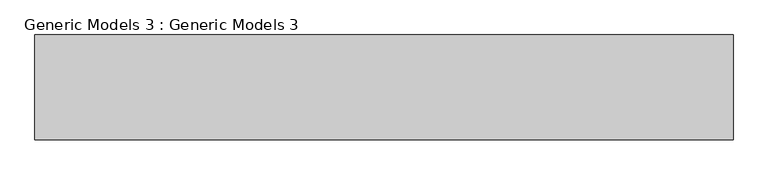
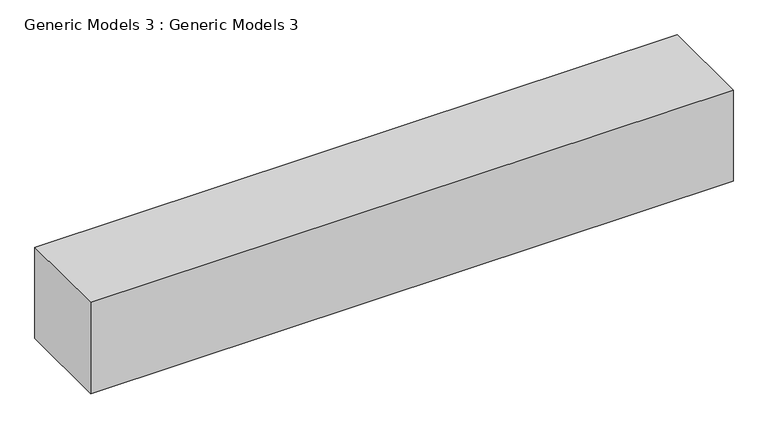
"""IFC4 building model written with IfcOpenShell, lengths in millimetres: proxy geometry, Generic Models 3 : Generic Models 3."""

from ifc_helpers import new_model, si_unit, frame, origin, place, context, project, spatial, polyline, outline, extrude, faceted_brep, source, transform, mapped, element, save


def generic_models_3_generic_models_3_f648256a(model_context):
    return source(origin(), model_context, "Body", "SolidModel", [
        extrude(outline(polyline([(2677.8449565, -5565.4040425), (3332.8449565, -5565.4040425), (3332.8449565, -5581.4040425), (2677.8449565, -5581.4040425), (2677.8449565, -5565.4040425)])), frame((0.0, 0.0, 418.0), z_axis=(0.0, 0.0, 1.0), x_axis=(1.0, 0.0, 0.0)), (0.0, 0.0, 1.0), 264.0),
        extrude(outline(polyline([(2019.8449565, -5565.4040425), (2657.8449565, -5565.4040425), (2657.8449565, -5581.4040425), (2019.8449565, -5581.4040425), (2019.8449565, -5565.4040425)])), frame((0.0, 0.0, 418.0), z_axis=(0.0, 0.0, 1.0), x_axis=(1.0, 0.0, 0.0)), (0.0, 0.0, 1.0), 264.0),
        extrude(outline(polyline([(3350.8449565, -5565.4040425), (3985.8449565, -5565.4040425), (3985.8449565, -5845.4040425), (3350.8449565, -5845.4040425), (3350.8449565, -5565.4040425)])), frame((0.0, 0.0, 542.0), z_axis=(0.0, 0.0, 1.0), x_axis=(1.0, 0.0, 0.0)), (0.0, 0.0, 1.0), 16.0),
        faceted_brep([(4001.8449565, -5565.4040425, 700.0), (4001.8449565, -5565.4040425, 400.0), (2001.8449565, -5565.4040425, 400.0), (2001.8449565, -5565.4040425, 700.0), (3350.8449565, -5565.4040425, 684.0), (3350.8449565, -5565.4040425, 416.0), (3985.8449565, -5565.4040425, 416.0), (3985.8449565, -5565.4040425, 684.0), (3334.8449565, -5565.4040425, 416.0), (3334.8449565, -5565.4040425, 684.0), (2675.8449565, -5565.4040425, 684.0), (2675.8449565, -5565.4040425, 416.0), (2659.8449565, -5565.4040425, 416.0), (2659.8449565, -5565.4040425, 684.0), (2017.8449565, -5565.4040425, 684.0), (2017.8449565, -5565.4040425, 416.0), (4001.8449565, -5865.4040425, 700.0), (2001.8449565, -5865.4040425, 700.0), (2001.8449565, -5865.4040425, 400.0), (4001.8449565, -5865.4040425, 400.0), (3350.8449565, -5845.4040425, 684.0), (3985.8449565, -5845.4040425, 684.0), (3985.8449565, -5845.4040425, 416.0), (3350.8449565, -5845.4040425, 416.0), (3334.8449565, -5581.4040425, 416.0), (2675.8449565, -5581.4040425, 416.0), (2675.8449565, -5581.4040425, 684.0), (3334.8449565, -5581.4040425, 684.0), (2659.8449565, -5581.4040425, 416.0), (2017.8449565, -5581.4040425, 416.0), (2017.8449565, -5581.4040425, 684.0), (2659.8449565, -5581.4040425, 684.0)], [[[0, 1, 2, 3], [4, 5, 6, 7], [8, 9, 10, 11], [12, 13, 14, 15]], [[16, 17, 18, 19]], [[1, 0, 16, 19]], [[2, 1, 19, 18]], [[3, 2, 18, 17]], [[0, 3, 17, 16]], [[20, 21, 22, 23]], [[20, 23, 5, 4]], [[23, 22, 6, 5]], [[22, 21, 7, 6]], [[21, 20, 4, 7]], [[24, 25, 26, 27]], [[28, 29, 30, 31]], [[24, 27, 9, 8]], [[27, 26, 10, 9]], [[26, 25, 11, 10]], [[25, 24, 8, 11]], [[28, 31, 13, 12]], [[31, 30, 14, 13]], [[30, 29, 15, 14]], [[29, 28, 12, 15]]]),
    ])


if __name__ == "__main__":
    model = new_model("IFC4")
    model_context = context("Model", 3, world=origin())
    ifc_project = project(units=[si_unit("LENGTHUNIT", "METRE", prefix="MILLI")], contexts=[model_context])
    site = spatial("IfcSite", under=ifc_project)
    building = spatial("IfcBuilding", under=site)
    placement = place(None, origin())
    generic_models_3_generic_models_3_shape = generic_models_3_generic_models_3_f648256a(model_context)
    element("IfcBuildingElementProxy", 1, Name="Generic Models 3 : Generic Models 3", ObjectType="Generic Models 3 : Generic Models 3", at=placement, inside=building, context=model_context, shape_type="MappedRepresentation", body=[
        mapped(generic_models_3_generic_models_3_shape, transform((0.0, 0.0, 0.0), x_axis=(1.0, 0.0, 0.0), y_axis=(0.0, 1.0, 0.0), z_axis=(0.0, 0.0, 1.0))),
    ])
    save(model, "model.ifc")
